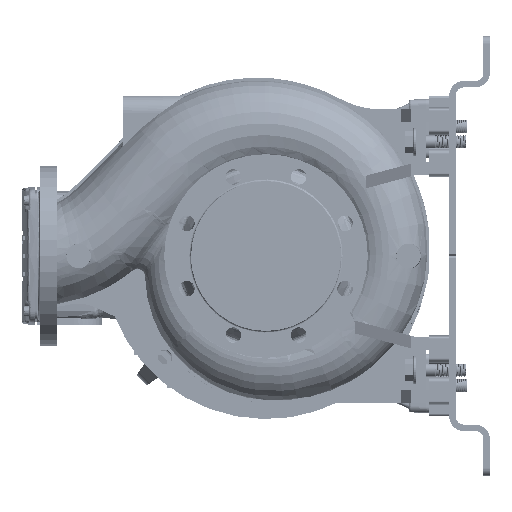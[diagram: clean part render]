
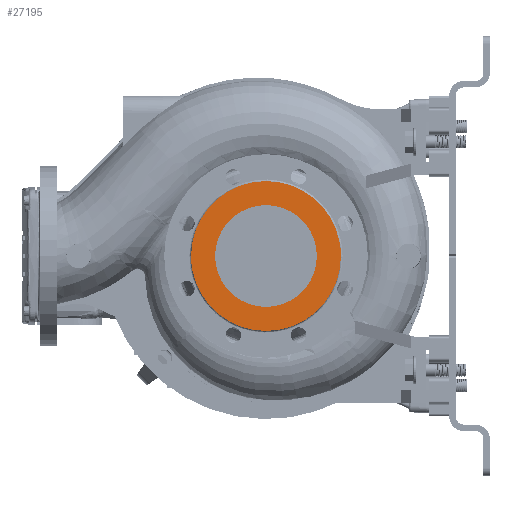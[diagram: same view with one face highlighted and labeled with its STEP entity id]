
A CAD part, left-side view. The second image highlights one B-rep face of the part: STEP entity #27195.
In plain terms, the highlighted planar face has unit normal (-1, 0, 0).
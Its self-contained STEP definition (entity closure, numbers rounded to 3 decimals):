
#125 = ORIENTED_EDGE ( 'NONE', *, *, #24107, .F. ) ;
#4681 = CARTESIAN_POINT ( 'NONE',  ( -125., -92., 0. ) ) ;
#9288 = CARTESIAN_POINT ( 'NONE',  ( -125., 0., 62.5 ) ) ;
#14880 = CARTESIAN_POINT ( 'NONE',  ( -125., 85.133, 35.264 ) ) ;
#22516 = CARTESIAN_POINT ( 'NONE',  ( -125., 92., 0. ) ) ;
#24107 = EDGE_CURVE ( 'NONE', #233509, #162467, #72739, .T. ) ;
#25383 = CARTESIAN_POINT ( 'NONE',  ( -125., -85.545, -35.434 ) ) ;
#26649 = EDGE_LOOP ( 'NONE', ( #160508, #125 ) ) ;
#26824 = CARTESIAN_POINT ( 'NONE',  ( -125., 74.163, -55.003 ) ) ;
#27195 = ADVANCED_FACE ( 'NONE', ( #267211, #290823 ), #88720, .F. ) ;
#39136 = EDGE_CURVE ( 'NONE', #179126, #90913, #154407, .T. ) ;
#43908 = CARTESIAN_POINT ( 'NONE',  ( -125., 88.18, 26.749 ) ) ;
#44647 = CARTESIAN_POINT ( 'NONE',  ( -125., 91.704, -9.033 ) ) ;
#47513 = CARTESIAN_POINT ( 'NONE',  ( -125., -51.442, -76.988 ) ) ;
#50499 = EDGE_CURVE ( 'NONE', #90913, #179126, #189125, .T. ) ;
#51648 = DIRECTION ( 'NONE',  ( 0., 0., -1. ) ) ;
#54879 = AXIS2_PLACEMENT_3D ( 'NONE', #66559, #212433, #51648 ) ;
#57142 = DIRECTION ( 'NONE',  ( -1., 0., 0. ) ) ;
#59166 = CARTESIAN_POINT ( 'NONE',  ( -125., -92., 6.021 ) ) ;
#60612 = CARTESIAN_POINT ( 'NONE',  ( -125., 92., 0. ) ) ;
#66559 = CARTESIAN_POINT ( 'NONE',  ( -125., -93.104, 93.104 ) ) ;
#68231 = CARTESIAN_POINT ( 'NONE',  ( -125., -35.434, -85.545 ) ) ;
#72739 = CIRCLE ( 'NONE', #138702, 62.5 ) ;
#76397 = DIRECTION ( 'NONE',  ( -1., 0., 0. ) ) ;
#78155 = CIRCLE ( 'NONE', #101774, 62.5 ) ;
#79863 = CARTESIAN_POINT ( 'NONE',  ( -125., 18.062, 90.815 ) ) ;
#84219 = CARTESIAN_POINT ( 'NONE',  ( -125., -65.473, 65.473 ) ) ;
#88720 = PLANE ( 'NONE',  #54879 ) ;
#88947 = CARTESIAN_POINT ( 'NONE',  ( -125., 32.548, -86.419 ) ) ;
#90913 = VERTEX_POINT ( 'NONE', #261588 ) ;
#91823 = CARTESIAN_POINT ( 'NONE',  ( -125., 66.273, -64.149 ) ) ;
#101429 = DIRECTION ( 'NONE',  ( 0., 0., -1. ) ) ;
#101774 = AXIS2_PLACEMENT_3D ( 'NONE', #189930, #57142, #101429 ) ;
#102014 = CARTESIAN_POINT ( 'NONE',  ( -125., 0.001, 92.593 ) ) ;
#104897 = CARTESIAN_POINT ( 'NONE',  ( -125., -51.442, 76.988 ) ) ;
#106338 = CARTESIAN_POINT ( 'NONE',  ( -125., 91.704, 9.033 ) ) ;
#111083 = CARTESIAN_POINT ( 'NONE',  ( -125., -92., -6.021 ) ) ;
#111814 = CARTESIAN_POINT ( 'NONE',  ( -125., 74.163, 55.003 ) ) ;
#116851 = CARTESIAN_POINT ( 'NONE',  ( -125., 85.133, -35.264 ) ) ;
#127048 = CARTESIAN_POINT ( 'NONE',  ( -125., 92., 3.009 ) ) ;
#133970 = CARTESIAN_POINT ( 'NONE',  ( -125., 43.438, 81.267 ) ) ;
#135409 = CARTESIAN_POINT ( 'NONE',  ( -125., 80.624, 44.798 ) ) ;
#136134 = CARTESIAN_POINT ( 'NONE',  ( -125., -65.473, -65.473 ) ) ;
#138702 = AXIS2_PLACEMENT_3D ( 'NONE', #216503, #76397, #194370 ) ;
#150625 = CARTESIAN_POINT ( 'NONE',  ( -125., 66.273, 64.149 ) ) ;
#150645 = ORIENTED_EDGE ( 'NONE', *, *, #39136, .F. ) ;
#154407 = B_SPLINE_CURVE_WITH_KNOTS ( 'NONE', 3,
 ( #4681, #111083, #201077, #25383, #291049, #136134, #47513, #68231, #178946, #206801, #270336, #88947, #202494, #226084, #248220, #91823, #26824, #156819, #116851, #159687, #246776, #44647, #224652, #22516 ),
 .UNSPECIFIED., .F., .F.,
 ( 4, 1, 1, 1, 1, 1, 1, 1, 1, 1, 1, 1, 1, 1, 1, 1, 1, 1, 1, 1, 1, 4 ),
 ( 0., 0.018, 0.036, 0.054, 0.072, 0.091, 0.109, 0.127, 0.145, 0.163, 0.181, 0.19, 0.199, 0.208, 0.217, 0.231, 0.244, 0.254, 0.263, 0.272, 0.281, 0.29 ),
 .UNSPECIFIED. ) ;
#156819 = CARTESIAN_POINT ( 'NONE',  ( -125., 80.624, -44.798 ) ) ;
#156922 = CARTESIAN_POINT ( 'NONE',  ( -125., -92., 0. ) ) ;
#159687 = CARTESIAN_POINT ( 'NONE',  ( -125., 88.18, -26.749 ) ) ;
#160508 = ORIENTED_EDGE ( 'NONE', *, *, #252990, .F. ) ;
#162467 = VERTEX_POINT ( 'NONE', #222676 ) ;
#178218 = CARTESIAN_POINT ( 'NONE',  ( -125., -90.814, 18.064 ) ) ;
#178946 = CARTESIAN_POINT ( 'NONE',  ( -125., -18.064, -90.814 ) ) ;
#179126 = VERTEX_POINT ( 'NONE', #156922 ) ;
#189125 = B_SPLINE_CURVE_WITH_KNOTS ( 'NONE', 3,
 ( #60612, #127048, #106338, #259822, #43908, #14880, #135409, #111814, #150625, #217007, #286320, #133970, #225361, #79863, #102014, #196342, #247489, #104897, #84219, #261275, #194898, #178218, #59166, #223910 ),
 .UNSPECIFIED., .F., .F.,
 ( 4, 1, 1, 1, 1, 1, 1, 1, 1, 1, 1, 1, 1, 1, 1, 1, 1, 1, 1, 1, 1, 4 ),
 ( 0., 0.009, 0.018, 0.027, 0.036, 0.045, 0.059, 0.073, 0.082, 0.091, 0.1, 0.109, 0.127, 0.145, 0.163, 0.181, 0.199, 0.218, 0.236, 0.254, 0.272, 0.29 ),
 .UNSPECIFIED. ) ;
#189930 = CARTESIAN_POINT ( 'NONE',  ( -125., 0., 0. ) ) ;
#194370 = DIRECTION ( 'NONE',  ( 0., 0., -1. ) ) ;
#194898 = CARTESIAN_POINT ( 'NONE',  ( -125., -85.545, 35.434 ) ) ;
#196342 = CARTESIAN_POINT ( 'NONE',  ( -125., -18.064, 90.814 ) ) ;
#201077 = CARTESIAN_POINT ( 'NONE',  ( -125., -90.814, -18.064 ) ) ;
#202494 = CARTESIAN_POINT ( 'NONE',  ( -125., 43.438, -81.267 ) ) ;
#206801 = CARTESIAN_POINT ( 'NONE',  ( -125., 0.001, -92.593 ) ) ;
#212433 = DIRECTION ( 'NONE',  ( 1., 0., 0. ) ) ;
#216503 = CARTESIAN_POINT ( 'NONE',  ( -125., 0., 0. ) ) ;
#217007 = CARTESIAN_POINT ( 'NONE',  ( -125., 58.458, 71.231 ) ) ;
#222676 = CARTESIAN_POINT ( 'NONE',  ( -125., 0., -62.5 ) ) ;
#223910 = CARTESIAN_POINT ( 'NONE',  ( -125., -92., 0. ) ) ;
#224652 = CARTESIAN_POINT ( 'NONE',  ( -125., 92., -3.009 ) ) ;
#225361 = CARTESIAN_POINT ( 'NONE',  ( -125., 32.548, 86.419 ) ) ;
#226084 = CARTESIAN_POINT ( 'NONE',  ( -125., 51.195, -76.618 ) ) ;
#233509 = VERTEX_POINT ( 'NONE', #9288 ) ;
#246776 = CARTESIAN_POINT ( 'NONE',  ( -125., 90.377, -17.977 ) ) ;
#247489 = CARTESIAN_POINT ( 'NONE',  ( -125., -35.434, 85.545 ) ) ;
#248220 = CARTESIAN_POINT ( 'NONE',  ( -125., 58.458, -71.231 ) ) ;
#249133 = EDGE_LOOP ( 'NONE', ( #150645, #281178 ) ) ;
#252990 = EDGE_CURVE ( 'NONE', #162467, #233509, #78155, .T. ) ;
#259822 = CARTESIAN_POINT ( 'NONE',  ( -125., 90.377, 17.977 ) ) ;
#261275 = CARTESIAN_POINT ( 'NONE',  ( -125., -76.988, 51.442 ) ) ;
#261588 = CARTESIAN_POINT ( 'NONE',  ( -125., 92., 0. ) ) ;
#267211 = FACE_BOUND ( 'NONE', #26649, .T. ) ;
#270336 = CARTESIAN_POINT ( 'NONE',  ( -125., 18.062, -90.815 ) ) ;
#281178 = ORIENTED_EDGE ( 'NONE', *, *, #50499, .F. ) ;
#286320 = CARTESIAN_POINT ( 'NONE',  ( -125., 51.195, 76.618 ) ) ;
#290823 = FACE_OUTER_BOUND ( 'NONE', #249133, .T. ) ;
#291049 = CARTESIAN_POINT ( 'NONE',  ( -125., -76.988, -51.442 ) ) ;
